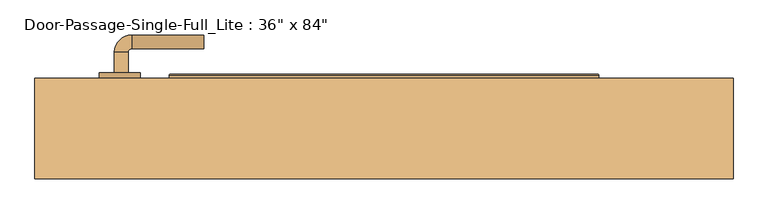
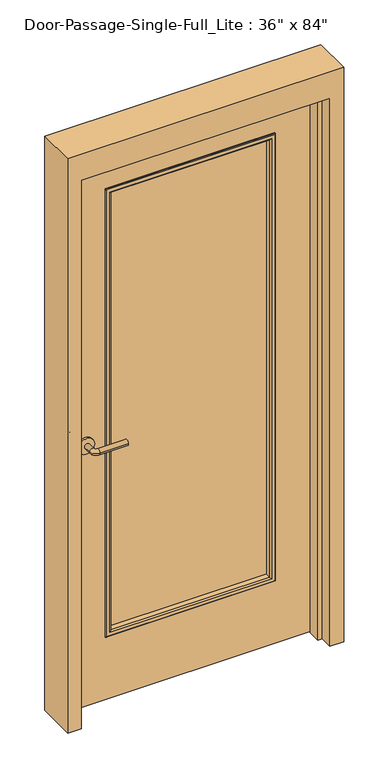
"""IFC4 building model written with IfcOpenShell, lengths in millimetres: door geometry."""

from ifc_helpers import new_model, si_unit, point, frame, frame_2d, origin, place, context, project, spatial, polyline, circle_curve, ellipse_curve, trimmed, segment, composite_curve, outline, extrude, faceted_brep, source, transform, mapped, element, save
from ifc_brep_helpers import plane_surface, cylinder_surface, revolved_surface, advanced_brep


def door_dac99271(model_context):
    return source(origin(), model_context, "Body", "SolidModel", [
        advanced_brep(
        [(-392.190625, 15.8125, 1016.0), (-372.190625, 15.8125, 1016.0), (-372.190625, -14.1875, 1016.0), (-392.190625, -14.1875, 1016.0), (-367.190625, -19.1875, 1016.0), (-367.190625, -39.1875, 1016.0), (-262.190625, -39.1875, 1016.0), (-262.190625, -19.1875, 1016.0)],
        [
            (0, 1, circle_curve(frame((-382.190625, 15.8125, 1016.0), z_axis=(0.0, 1.0, 0.0), x_axis=(1.0, 0.0, 0.0)), 10.0)),
            (1, 0, circle_curve(frame((-382.190625, 15.8125, 1016.0), z_axis=(0.0, 1.0, 0.0), x_axis=(1.0, 0.0, 0.0)), 10.0)),
            (1, 2),
            (2, 3, circle_curve(frame((-382.190625, -14.1875, 1016.0), z_axis=(0.0, 1.0, 0.0), x_axis=(1.0, 0.0, 0.0)), 10.0)),
            (3, 0),
            (3, 2, circle_curve(frame((-382.190625, -14.1875, 1016.0), z_axis=(0.0, 1.0, 0.0), x_axis=(1.0, 0.0, 0.0)), 10.0)),
            (4, 5, circle_curve(frame((-367.190625, -29.1875, 1016.0), z_axis=(-1.0, 0.0, 0.0), x_axis=(0.0, 1.0, 0.0)), 10.0)),
            (5, 3, circle_curve(frame((-367.190625, -14.1875, 1016.0), z_axis=(0.0, 0.0, -1.0), x_axis=(-1.0, 0.0, 0.0)), 25.0)),
            (2, 4, circle_curve(frame((-367.190625, -14.1875, 1016.0), z_axis=(0.0, 0.0, 1.0), x_axis=(-1.0, 0.0, 0.0)), 5.0)),
            (5, 4, circle_curve(frame((-367.190625, -29.1875, 1016.0), z_axis=(-1.0, 0.0, 0.0), x_axis=(0.0, 1.0, 0.0)), 10.0)),
            (6, 7, circle_curve(frame((-262.190625, -29.1875, 1016.0), z_axis=(1.0, 0.0, 0.0), x_axis=(0.0, 1.0, 0.0)), 10.0)),
            (7, 6, circle_curve(frame((-262.190625, -29.1875, 1016.0), z_axis=(1.0, 0.0, 0.0), x_axis=(0.0, 1.0, 0.0)), 10.0)),
            (4, 7),
            (6, 5),
        ],
        [
            plane_surface(frame((-382.190625, 15.8125, 1016.0), z_axis=(0.0, 1.0, 0.0), x_axis=(0.0, 0.0, 1.0))),
            cylinder_surface(frame((-382.190625, 15.8125, 1016.0), z_axis=(0.0, 1.0, 0.0), x_axis=(1.0, 0.0, 0.0)), 10.0),
            revolved_surface(trimmed(ellipse_curve(frame((-382.190625, -14.1875, 1016.0), z_axis=(0.0, -1.0, 0.0), x_axis=(1.0, 0.0, 0.0)), 10.0, 10.0), [point((-392.190625, -14.1875, 1016.0))], [point((-372.190625, -14.1875, 1016.0))], True, "CARTESIAN"), (-367.190625, -14.1875, 1016.0), (0.0, 0.0, -1.0)),
            revolved_surface(trimmed(ellipse_curve(frame((-382.190625, -14.1875, 1016.0), z_axis=(0.0, -1.0, 0.0), x_axis=(1.0, 0.0, 0.0)), 10.0, 10.0), [point((-372.190625, -14.1875, 1016.0))], [point((-392.190625, -14.1875, 1016.0))], True, "CARTESIAN"), (-367.190625, -14.1875, 1016.0), (0.0, 0.0, -1.0)),
            plane_surface(frame((-262.190625, -29.1875, 1016.0), z_axis=(1.0, 0.0, 0.0), x_axis=(0.0, 0.0, 1.0))),
            cylinder_surface(frame((-367.190625, -29.1875, 1016.0), z_axis=(-1.0, 0.0, 0.0), x_axis=(0.0, 1.0, 0.0)), 10.0),
        ],
        [
            (0, [[1, 2]]),
            (1, [[3, 4, 5, -2]]),
            (1, [[-5, 6, -3, -1]]),
            (2, [[7, 8, -4, 9]]),
            (3, [[10, -9, -6, -8]]),
            (4, [[11, 12]]),
            (5, [[13, -11, 14, -7]]),
            (5, [[-14, -12, -13, -10]]),
        ],
    ),
        extrude(outline(composite_curve([segment(trimmed(circle_curve(frame_2d((1016.0, -384.690625)), 30.0), [point((1016.0, -414.690625))], [point((1016.0, -354.690625))], False, "CARTESIAN"), True, "CONTINUOUS"), segment(trimmed(circle_curve(frame_2d((1016.0, -384.690625)), 30.0), [point((1016.0, -354.690625))], [point((1016.0, -414.690625))], False, "CARTESIAN"), True, "CONTINUOUS")], self_intersect=False)), frame((0.0, 15.8125, 0.0), z_axis=(0.0, 1.0, 0.0), x_axis=(0.0, 0.0, 1.0)), (0.0, 0.0, 1.0), 8.0),
        advanced_brep(
        [(-392.190625, 76.2625, 1016.0), (-372.190625, 76.2625, 1016.0), (-392.190625, 106.2625, 1016.0), (-372.190625, 106.2625, 1016.0), (-367.190625, 111.2625, 1016.0), (-367.190625, 131.2625, 1016.0), (-262.190625, 131.2625, 1016.0), (-262.190625, 111.2625, 1016.0)],
        [
            (0, 1, circle_curve(frame((-382.190625, 76.2625, 1016.0), z_axis=(0.0, -1.0, 0.0), x_axis=(1.0, 0.0, 0.0)), 10.0)),
            (1, 0, circle_curve(frame((-382.190625, 76.2625, 1016.0), z_axis=(0.0, -1.0, 0.0), x_axis=(1.0, 0.0, 0.0)), 10.0)),
            (0, 2),
            (2, 3, circle_curve(frame((-382.190625, 106.2625, 1016.0), z_axis=(0.0, -1.0, 0.0), x_axis=(1.0, 0.0, 0.0)), 10.0)),
            (3, 1),
            (3, 2, circle_curve(frame((-382.190625, 106.2625, 1016.0), z_axis=(0.0, -1.0, 0.0), x_axis=(1.0, 0.0, 0.0)), 10.0)),
            (4, 3, circle_curve(frame((-367.190625, 106.2625, 1016.0), z_axis=(0.0, 0.0, 1.0), x_axis=(-1.0, 0.0, 0.0)), 5.0)),
            (2, 5, circle_curve(frame((-367.190625, 106.2625, 1016.0), z_axis=(0.0, 0.0, -1.0), x_axis=(-1.0, 0.0, 0.0)), 25.0)),
            (5, 4, circle_curve(frame((-367.190625, 121.2625, 1016.0), z_axis=(-1.0, 0.0, 0.0), x_axis=(0.0, -1.0, 0.0)), 10.0)),
            (4, 5, circle_curve(frame((-367.190625, 121.2625, 1016.0), z_axis=(-1.0, 0.0, 0.0), x_axis=(0.0, -1.0, 0.0)), 10.0)),
            (6, 7, circle_curve(frame((-262.190625, 121.2625, 1016.0), z_axis=(1.0, 0.0, 0.0), x_axis=(0.0, -1.0, 0.0)), 10.0)),
            (7, 6, circle_curve(frame((-262.190625, 121.2625, 1016.0), z_axis=(1.0, 0.0, 0.0), x_axis=(0.0, -1.0, 0.0)), 10.0)),
            (5, 6),
            (7, 4),
        ],
        [
            plane_surface(frame((-382.190625, 76.2625, 1016.0), z_axis=(0.0, -1.0, 0.0), x_axis=(0.0, 0.0, 1.0))),
            cylinder_surface(frame((-382.190625, 76.2625, 1016.0), z_axis=(0.0, -1.0, 0.0), x_axis=(1.0, 0.0, 0.0)), 10.0),
            revolved_surface(trimmed(ellipse_curve(frame((-382.190625, 106.2625, 1016.0), z_axis=(0.0, -1.0, 0.0), x_axis=(1.0, 0.0, 0.0)), 10.0, 10.0), [point((-392.190625, 106.2625, 1016.0))], [point((-372.190625, 106.2625, 1016.0))], True, "CARTESIAN"), (-367.190625, 106.2625, 1016.0), (0.0, 0.0, -1.0)),
            revolved_surface(trimmed(ellipse_curve(frame((-382.190625, 106.2625, 1016.0), z_axis=(0.0, -1.0, 0.0), x_axis=(1.0, 0.0, 0.0)), 10.0, 10.0), [point((-372.190625, 106.2625, 1016.0))], [point((-392.190625, 106.2625, 1016.0))], True, "CARTESIAN"), (-367.190625, 106.2625, 1016.0), (0.0, 0.0, -1.0)),
            plane_surface(frame((-262.190625, 121.2625, 1016.0), z_axis=(1.0, 0.0, 0.0), x_axis=(0.0, 0.0, 1.0))),
            cylinder_surface(frame((-367.190625, 121.2625, 1016.0), z_axis=(-1.0, 0.0, 0.0), x_axis=(0.0, -1.0, 0.0)), 10.0),
        ],
        [
            (0, [[1, 2]]),
            (1, [[-1, 3, 4, 5]]),
            (1, [[-2, -5, 6, -3]]),
            (2, [[7, -4, 8, 9]]),
            (3, [[-8, -6, -7, 10]]),
            (4, [[11, 12]]),
            (5, [[-9, 13, -12, 14]]),
            (5, [[-10, -14, -11, -13]]),
        ],
    ),
        extrude(outline(composite_curve([segment(trimmed(circle_curve(frame_2d((1016.0, -384.690625)), 30.0), [point((1016.0, -414.690625))], [point((1016.0, -354.690625))], False, "CARTESIAN"), True, "CONTINUOUS"), segment(trimmed(circle_curve(frame_2d((1016.0, -384.690625)), 30.0), [point((1016.0, -354.690625))], [point((1016.0, -414.690625))], False, "CARTESIAN"), True, "CONTINUOUS")], self_intersect=False)), frame((0.0, 68.2625, 0.0), z_axis=(0.0, 1.0, 0.0), x_axis=(0.0, 0.0, 1.0)), (0.0, 0.0, 1.0), 8.0),
        extrude(outline(polyline([(304.8, 42.8625), (-304.8, 42.8625), (-304.8, 49.2125), (304.8, 49.2125), (304.8, 42.8625)])), frame((0.0, 0.0, 254.0), z_axis=(0.0, 0.0, 1.0), x_axis=(1.0, 0.0, 0.0)), (0.0, 0.0, 1.0), 1727.2),
        faceted_brep([(457.2, 19.05, 0.0), (457.2, 68.2625, 0.0), (508.0, 68.2625, 0.0), (508.0, -77.7875, 0.0), (457.2, -77.7875, 0.0), (457.2, -28.575, 0.0), (441.325, -28.575, 0.0), (441.325, 19.05, 0.0), (457.2, 19.05, 2133.6), (457.2, 68.2625, 2133.6), (-457.2, 68.2625, 2133.6), (-457.2, 68.2625, 0.0), (-508.0, 68.2625, 0.0), (-508.0, 68.2625, 2235.2), (508.0, 68.2625, 2235.2), (508.0, -77.7875, 2235.2), (-508.0, -77.7875, 2235.2), (-508.0, -77.7875, 0.0), (-457.2, -77.7875, 0.0), (-457.2, -77.7875, 2133.6), (457.2, -77.7875, 2133.6), (457.2, -28.575, 2133.6), (-457.2, -28.575, 2133.6), (-457.2, -28.575, 0.0), (-441.325, -28.575, 0.0), (-441.325, -28.575, 2117.725), (441.325, -28.575, 2117.725), (441.325, 19.05, 2117.725), (-441.325, 19.05, 2117.725), (-441.325, 19.05, 0.0), (-457.2, 19.05, 0.0), (-457.2, 19.05, 2133.6)], [[[0, 1, 2, 3, 4, 5, 6, 7]], [[1, 0, 8, 9]], [[2, 1, 9, 10, 11, 12, 13, 14]], [[3, 2, 14, 15]], [[4, 3, 15, 16, 17, 18, 19, 20]], [[5, 4, 20, 21]], [[6, 5, 21, 22, 23, 24, 25, 26]], [[7, 6, 26, 27]], [[0, 7, 27, 28, 29, 30, 31, 8]], [[9, 8, 31, 10]], [[20, 19, 22, 21]], [[26, 25, 28, 27]], [[12, 11, 30, 29, 24, 23, 18, 17]], [[11, 10, 31, 30]], [[13, 12, 17, 16]], [[19, 18, 23, 22]], [[25, 24, 29, 28]], [[15, 14, 13, 16]]]),
        extrude(outline(polyline([(2133.6, -457.2), (0.0, -457.2), (0.0, 457.2), (2133.6, 457.2), (2133.6, -457.2)]), holes=[polyline([(1981.2, -304.8), (1981.2, 304.8), (254.0, 304.8), (254.0, -304.8), (1981.2, -304.8)])]), frame((0.0, 23.8125, 0.0), z_axis=(0.0, 1.0, 0.0), x_axis=(0.0, 0.0, 1.0)), (0.0, 0.0, 1.0), 44.45),
        advanced_brep(
        [(-304.8, 49.2125, 1981.2), (-304.8, 68.2625, 1981.2), (-304.8, 68.2625, 254.0), (-304.8, 49.2125, 254.0), (-292.8, 69.2625, 1969.2), (-292.8, 49.2125, 1969.2), (-292.8, 49.2125, 266.0), (-292.8, 69.2625, 266.0), (-297.8, 74.2625, 1974.2), (-297.8, 74.2625, 261.0), (-312.8, 72.2625, 1989.2), (-310.8, 74.2625, 1987.2), (-310.8, 74.2625, 248.0), (-312.8, 72.2625, 246.0), (-312.8, 68.2625, 1989.2), (-312.8, 68.2625, 246.0), (304.8, 68.2625, 254.0), (304.8, 49.2125, 254.0), (292.8, 49.2125, 266.0), (292.8, 69.2625, 266.0), (297.8, 74.2625, 261.0), (310.8, 74.2625, 248.0), (312.8, 72.2625, 246.0), (312.8, 68.2625, 246.0), (304.8, 68.2625, 1981.2), (304.8, 49.2125, 1981.2), (292.8, 49.2125, 1969.2), (292.8, 69.2625, 1969.2), (297.8, 74.2625, 1974.2), (310.8, 74.2625, 1987.2), (312.8, 72.2625, 1989.2), (312.8, 68.2625, 1989.2)],
        [
            (0, 1),
            (1, 2),
            (2, 3),
            (3, 0),
            (4, 5),
            (5, 6),
            (6, 7),
            (7, 4),
            (8, 4, ellipse_curve(frame((-297.8, 69.2625, 1974.2), z_axis=(-0.7071067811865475, 0.0, -0.7071067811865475), x_axis=(-0.7071067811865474, 0.0, 0.7071067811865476)), 7.0710678, 5.0)),
            (7, 9, ellipse_curve(frame((-297.8, 69.2625, 261.0), z_axis=(-0.7071067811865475, 0.0, 0.7071067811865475), x_axis=(0.7071067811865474, 0.0, 0.7071067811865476)), 7.0710678, 5.0)),
            (9, 8),
            (10, 11, ellipse_curve(frame((-310.8, 72.2625, 1987.2), z_axis=(-0.7071067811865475, 0.0, -0.7071067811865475), x_axis=(-0.7071067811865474, 0.0, 0.7071067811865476)), 2.8284271, 2.0)),
            (11, 12),
            (12, 13, ellipse_curve(frame((-310.8, 72.2625, 248.0), z_axis=(-0.7071067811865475, 0.0, 0.7071067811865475), x_axis=(0.7071067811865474, 0.0, 0.7071067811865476)), 2.8284271, 2.0)),
            (13, 10),
            (14, 10),
            (13, 15),
            (15, 14),
            (2, 16),
            (16, 17),
            (17, 3),
            (6, 18),
            (18, 19),
            (19, 7),
            (19, 20, ellipse_curve(frame((297.8, 69.2625, 261.0), z_axis=(-0.7071067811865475, 0.0, -0.7071067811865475), x_axis=(-0.7071067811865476, 0.0, 0.7071067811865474)), 7.0710678, 5.0)),
            (20, 9),
            (12, 21),
            (21, 22, ellipse_curve(frame((310.8, 72.2625, 248.0), z_axis=(-0.7071067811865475, 0.0, -0.7071067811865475), x_axis=(-0.7071067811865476, 0.0, 0.7071067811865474)), 2.8284271, 2.0)),
            (22, 13),
            (22, 23),
            (23, 15),
            (16, 24),
            (24, 25),
            (25, 17),
            (18, 26),
            (26, 27),
            (27, 19),
            (27, 28, ellipse_curve(frame((297.8, 69.2625, 1974.2), z_axis=(0.7071067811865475, 0.0, -0.7071067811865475), x_axis=(-0.7071067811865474, 0.0, -0.7071067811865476)), 7.0710678, 5.0)),
            (28, 20),
            (21, 29),
            (29, 30, ellipse_curve(frame((310.8, 72.2625, 1987.2), z_axis=(0.7071067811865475, 0.0, -0.7071067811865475), x_axis=(-0.7071067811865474, 0.0, -0.7071067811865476)), 2.8284271, 2.0)),
            (30, 22),
            (30, 31),
            (31, 23),
            (31, 14),
            (1, 24),
            (0, 25),
            (5, 26),
            (4, 27),
            (8, 28),
            (11, 29),
            (10, 30),
        ],
        [
            plane_surface(frame((-304.8, 68.2625, 1981.2), z_axis=(-1.0, 0.0, 0.0), x_axis=(0.0, 0.0, -1.0))),
            plane_surface(frame((-292.8, 49.2125, 1969.2), z_axis=(1.0, 0.0, 0.0), x_axis=(0.0, 0.0, -1.0))),
            cylinder_surface(frame((-297.8, 69.2625, 1981.2), z_axis=(0.0, 0.0, 1.0), x_axis=(-1.0, 0.0, 0.0)), 5.0),
            cylinder_surface(frame((-310.8, 72.2625, 1981.2), z_axis=(0.0, 0.0, 1.0), x_axis=(-1.0, 0.0, 0.0)), 2.0),
            plane_surface(frame((-312.8, 72.2625, 1989.2), z_axis=(-1.0, 0.0, 0.0), x_axis=(0.0, 0.0, -1.0))),
            plane_surface(frame((-304.8, 68.2625, 254.0), z_axis=(0.0, 0.0, -1.0), x_axis=(1.0, 0.0, 0.0))),
            plane_surface(frame((-292.8, 49.2125, 266.0), z_axis=(0.0, 0.0, 1.0), x_axis=(1.0, 0.0, 0.0))),
            cylinder_surface(frame((-304.8, 69.2625, 261.0), z_axis=(-1.0, 0.0, 0.0), x_axis=(0.0, 0.0, -1.0)), 5.0),
            cylinder_surface(frame((-304.8, 72.2625, 248.0), z_axis=(-1.0, 0.0, 0.0), x_axis=(0.0, 0.0, -1.0)), 2.0),
            plane_surface(frame((-312.8, 72.2625, 246.0), z_axis=(0.0, 0.0, -1.0), x_axis=(1.0, 0.0, 0.0))),
            plane_surface(frame((304.8, 68.2625, 254.0), z_axis=(1.0, 0.0, 0.0), x_axis=(0.0, 0.0, 1.0))),
            plane_surface(frame((292.8, 49.2125, 266.0), z_axis=(-1.0, 0.0, 0.0), x_axis=(0.0, 0.0, 1.0))),
            cylinder_surface(frame((297.8, 69.2625, 254.0), z_axis=(0.0, 0.0, -1.0), x_axis=(1.0, 0.0, 0.0)), 5.0),
            cylinder_surface(frame((310.8, 72.2625, 254.0), z_axis=(0.0, 0.0, -1.0), x_axis=(1.0, 0.0, 0.0)), 2.0),
            plane_surface(frame((312.8, 72.2625, 246.0), z_axis=(1.0, 0.0, 0.0), x_axis=(0.0, 0.0, 1.0))),
            plane_surface(frame((312.8, 68.2625, 1989.2), z_axis=(0.0, -1.0, 0.0), x_axis=(-1.0, 0.0, 0.0))),
            plane_surface(frame((304.8, 68.2625, 1981.2), z_axis=(0.0, 0.0, 1.0), x_axis=(-1.0, 0.0, 0.0))),
            plane_surface(frame((304.8, 49.2125, 1981.2), z_axis=(0.0, -1.0, 0.0), x_axis=(-1.0, 0.0, 0.0))),
            plane_surface(frame((292.8, 49.2125, 1969.2), z_axis=(0.0, 0.0, -1.0), x_axis=(-1.0, 0.0, 0.0))),
            cylinder_surface(frame((304.8, 69.2625, 1974.2), z_axis=(1.0, 0.0, 0.0), x_axis=(0.0, 0.0, 1.0)), 5.0),
            plane_surface(frame((297.8, 74.2625, 1974.2), z_axis=(0.0, 1.0, 0.0), x_axis=(-1.0, 0.0, 0.0))),
            cylinder_surface(frame((304.8, 72.2625, 1987.2), z_axis=(1.0, 0.0, 0.0), x_axis=(0.0, 0.0, 1.0)), 2.0),
            plane_surface(frame((312.8, 72.2625, 1989.2), z_axis=(0.0, 0.0, 1.0), x_axis=(-1.0, 0.0, 0.0))),
        ],
        [
            (0, [[1, 2, 3, 4]]),
            (1, [[5, 6, 7, 8]]),
            (2, [[9, -8, 10, 11]]),
            (3, [[12, 13, 14, 15]]),
            (4, [[16, -15, 17, 18]]),
            (5, [[-3, 19, 20, 21]]),
            (6, [[-7, 22, 23, 24]]),
            (7, [[-10, -24, 25, 26]]),
            (8, [[-14, 27, 28, 29]]),
            (9, [[-17, -29, 30, 31]]),
            (10, [[-20, 32, 33, 34]]),
            (11, [[-23, 35, 36, 37]]),
            (12, [[-25, -37, 38, 39]]),
            (13, [[-28, 40, 41, 42]]),
            (14, [[-30, -42, 43, 44]]),
            (15, [[-31, -44, 45, -18], [46, -32, -19, -2]]),
            (16, [[-33, -46, -1, 47]]),
            (17, [[-21, -34, -47, -4], [48, -35, -22, -6]]),
            (18, [[-36, -48, -5, 49]]),
            (19, [[-38, -49, -9, 50]]),
            (20, [[51, -40, -27, -13], [-26, -39, -50, -11]]),
            (21, [[-41, -51, -12, 52]]),
            (22, [[-43, -52, -16, -45]]),
        ],
    ),
        advanced_brep(
        [(-304.8, 42.8625, 254.0), (-304.8, 23.8125, 254.0), (-304.8, 23.8125, 1981.2), (-304.8, 42.8625, 1981.2), (-292.8, 22.8125, 266.0), (-292.8, 42.8625, 266.0), (-292.8, 42.8625, 1969.2), (-292.8, 22.8125, 1969.2), (-297.8, 17.8125, 261.0), (-297.8, 17.8125, 1974.2), (-312.8, 19.8125, 246.0), (-310.8, 17.8125, 248.0), (-310.8, 17.8125, 1987.2), (-312.8, 19.8125, 1989.2), (-312.8, 23.8125, 246.0), (-312.8, 23.8125, 1989.2), (304.8, 23.8125, 1981.2), (304.8, 42.8625, 1981.2), (292.8, 42.8625, 1969.2), (292.8, 22.8125, 1969.2), (297.8, 17.8125, 1974.2), (310.8, 17.8125, 1987.2), (312.8, 19.8125, 1989.2), (312.8, 23.8125, 1989.2), (304.8, 23.8125, 254.0), (304.8, 42.8625, 254.0), (292.8, 42.8625, 266.0), (292.8, 22.8125, 266.0), (297.8, 17.8125, 261.0), (310.8, 17.8125, 248.0), (312.8, 19.8125, 246.0), (312.8, 23.8125, 246.0)],
        [
            (0, 1),
            (1, 2),
            (2, 3),
            (3, 0),
            (4, 5),
            (5, 6),
            (6, 7),
            (7, 4),
            (8, 4, ellipse_curve(frame((-297.8, 22.8125, 261.0), z_axis=(-0.7071067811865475, 0.0, 0.7071067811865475), x_axis=(-0.7071067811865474, 0.0, -0.7071067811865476)), 7.0710678, 5.0)),
            (7, 9, ellipse_curve(frame((-297.8, 22.8125, 1974.2), z_axis=(-0.7071067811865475, 0.0, -0.7071067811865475), x_axis=(0.7071067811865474, 0.0, -0.7071067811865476)), 7.0710678, 5.0)),
            (9, 8),
            (10, 11, ellipse_curve(frame((-310.8, 19.8125, 248.0), z_axis=(-0.7071067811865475, 0.0, 0.7071067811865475), x_axis=(-0.7071067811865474, 0.0, -0.7071067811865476)), 2.8284271, 2.0)),
            (11, 12),
            (12, 13, ellipse_curve(frame((-310.8, 19.8125, 1987.2), z_axis=(-0.7071067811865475, 0.0, -0.7071067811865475), x_axis=(0.7071067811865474, 0.0, -0.7071067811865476)), 2.8284271, 2.0)),
            (13, 10),
            (14, 10),
            (13, 15),
            (15, 14),
            (2, 16),
            (16, 17),
            (17, 3),
            (6, 18),
            (18, 19),
            (19, 7),
            (19, 20, ellipse_curve(frame((297.8, 22.8125, 1974.2), z_axis=(-0.7071067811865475, 0.0, 0.7071067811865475), x_axis=(-0.7071067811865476, 0.0, -0.7071067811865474)), 7.0710678, 5.0)),
            (20, 9),
            (12, 21),
            (21, 22, ellipse_curve(frame((310.8, 19.8125, 1987.2), z_axis=(-0.7071067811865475, 0.0, 0.7071067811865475), x_axis=(-0.7071067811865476, 0.0, -0.7071067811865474)), 2.8284271, 2.0)),
            (22, 13),
            (22, 23),
            (23, 15),
            (16, 24),
            (24, 25),
            (25, 17),
            (18, 26),
            (26, 27),
            (27, 19),
            (27, 28, ellipse_curve(frame((297.8, 22.8125, 261.0), z_axis=(0.7071067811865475, 0.0, 0.7071067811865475), x_axis=(-0.7071067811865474, 0.0, 0.7071067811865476)), 7.0710678, 5.0)),
            (28, 20),
            (21, 29),
            (29, 30, ellipse_curve(frame((310.8, 19.8125, 248.0), z_axis=(0.7071067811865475, 0.0, 0.7071067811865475), x_axis=(-0.7071067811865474, 0.0, 0.7071067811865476)), 2.8284271, 2.0)),
            (30, 22),
            (30, 31),
            (31, 23),
            (31, 14),
            (1, 24),
            (0, 25),
            (5, 26),
            (4, 27),
            (8, 28),
            (11, 29),
            (10, 30),
        ],
        [
            plane_surface(frame((-304.8, 23.8125, 254.0), z_axis=(-1.0, 0.0, 0.0), x_axis=(0.0, 0.0, 1.0))),
            plane_surface(frame((-292.8, 42.8625, 266.0), z_axis=(1.0, 0.0, 0.0), x_axis=(0.0, 0.0, 1.0))),
            cylinder_surface(frame((-297.8, 22.8125, 254.0), z_axis=(0.0, 0.0, -1.0), x_axis=(-1.0, 0.0, 0.0)), 5.0),
            cylinder_surface(frame((-310.8, 19.8125, 254.0), z_axis=(0.0, 0.0, -1.0), x_axis=(-1.0, 0.0, 0.0)), 2.0),
            plane_surface(frame((-312.8, 19.8125, 246.0), z_axis=(-1.0, 0.0, 0.0), x_axis=(0.0, 0.0, 1.0))),
            plane_surface(frame((-304.8, 23.8125, 1981.2), z_axis=(0.0, 0.0, 1.0), x_axis=(1.0, 0.0, 0.0))),
            plane_surface(frame((-292.8, 42.8625, 1969.2), z_axis=(0.0, 0.0, -1.0), x_axis=(1.0, 0.0, 0.0))),
            cylinder_surface(frame((-304.8, 22.8125, 1974.2), z_axis=(-1.0, 0.0, 0.0), x_axis=(0.0, 0.0, 1.0)), 5.0),
            cylinder_surface(frame((-304.8, 19.8125, 1987.2), z_axis=(-1.0, 0.0, 0.0), x_axis=(0.0, 0.0, 1.0)), 2.0),
            plane_surface(frame((-312.8, 19.8125, 1989.2), z_axis=(0.0, 0.0, 1.0), x_axis=(1.0, 0.0, 0.0))),
            plane_surface(frame((304.8, 23.8125, 1981.2), z_axis=(1.0, 0.0, 0.0), x_axis=(0.0, 0.0, -1.0))),
            plane_surface(frame((292.8, 42.8625, 1969.2), z_axis=(-1.0, 0.0, 0.0), x_axis=(0.0, 0.0, -1.0))),
            cylinder_surface(frame((297.8, 22.8125, 1981.2), z_axis=(0.0, 0.0, 1.0), x_axis=(1.0, 0.0, 0.0)), 5.0),
            cylinder_surface(frame((310.8, 19.8125, 1981.2), z_axis=(0.0, 0.0, 1.0), x_axis=(1.0, 0.0, 0.0)), 2.0),
            plane_surface(frame((312.8, 19.8125, 1989.2), z_axis=(1.0, 0.0, 0.0), x_axis=(0.0, 0.0, -1.0))),
            plane_surface(frame((312.8, 23.8125, 246.0), z_axis=(0.0, 1.0, 0.0), x_axis=(-1.0, 0.0, 0.0))),
            plane_surface(frame((304.8, 23.8125, 254.0), z_axis=(0.0, 0.0, -1.0), x_axis=(-1.0, 0.0, 0.0))),
            plane_surface(frame((304.8, 42.8625, 254.0), z_axis=(0.0, 1.0, 0.0), x_axis=(-1.0, 0.0, 0.0))),
            plane_surface(frame((292.8, 42.8625, 266.0), z_axis=(0.0, 0.0, 1.0), x_axis=(-1.0, 0.0, 0.0))),
            cylinder_surface(frame((304.8, 22.8125, 261.0), z_axis=(1.0, 0.0, 0.0), x_axis=(0.0, 0.0, -1.0)), 5.0),
            plane_surface(frame((297.8, 17.8125, 261.0), z_axis=(0.0, -1.0, 0.0), x_axis=(-1.0, 0.0, 0.0))),
            cylinder_surface(frame((304.8, 19.8125, 248.0), z_axis=(1.0, 0.0, 0.0), x_axis=(0.0, 0.0, -1.0)), 2.0),
            plane_surface(frame((312.8, 19.8125, 246.0), z_axis=(0.0, 0.0, -1.0), x_axis=(-1.0, 0.0, 0.0))),
        ],
        [
            (0, [[1, 2, 3, 4]]),
            (1, [[5, 6, 7, 8]]),
            (2, [[9, -8, 10, 11]]),
            (3, [[12, 13, 14, 15]]),
            (4, [[16, -15, 17, 18]]),
            (5, [[-3, 19, 20, 21]]),
            (6, [[-7, 22, 23, 24]]),
            (7, [[-10, -24, 25, 26]]),
            (8, [[-14, 27, 28, 29]]),
            (9, [[-17, -29, 30, 31]]),
            (10, [[-20, 32, 33, 34]]),
            (11, [[-23, 35, 36, 37]]),
            (12, [[-25, -37, 38, 39]]),
            (13, [[-28, 40, 41, 42]]),
            (14, [[-30, -42, 43, 44]]),
            (15, [[-31, -44, 45, -18], [46, -32, -19, -2]]),
            (16, [[-33, -46, -1, 47]]),
            (17, [[-21, -34, -47, -4], [48, -35, -22, -6]]),
            (18, [[-36, -48, -5, 49]]),
            (19, [[-38, -49, -9, 50]]),
            (20, [[51, -40, -27, -13], [-26, -39, -50, -11]]),
            (21, [[-41, -51, -12, 52]]),
            (22, [[-43, -52, -16, -45]]),
        ],
    ),
    ])


if __name__ == "__main__":
    model = new_model("IFC4")
    model_context = context("Model", 3, world=origin())
    ifc_project = project(units=[si_unit("LENGTHUNIT", "METRE", prefix="MILLI")], contexts=[model_context])
    site = spatial("IfcSite", under=ifc_project)
    building = spatial("IfcBuilding", under=site)
    placement = place(None, origin())
    door_shape = door_dac99271(model_context)
    element("IfcDoor", 1, ObjectType="Door-Passage-Single-Full_Lite : 36\" x 84\"", at=placement, inside=building, context=model_context, shape_type="MappedRepresentation", body=[
        mapped(door_shape, transform((0.0, 0.0, 0.0), x_axis=(1.0, 0.0, 0.0), y_axis=(0.0, 1.0, 0.0), z_axis=(0.0, 0.0, 1.0))),
    ])
    save(model, "model.ifc")
